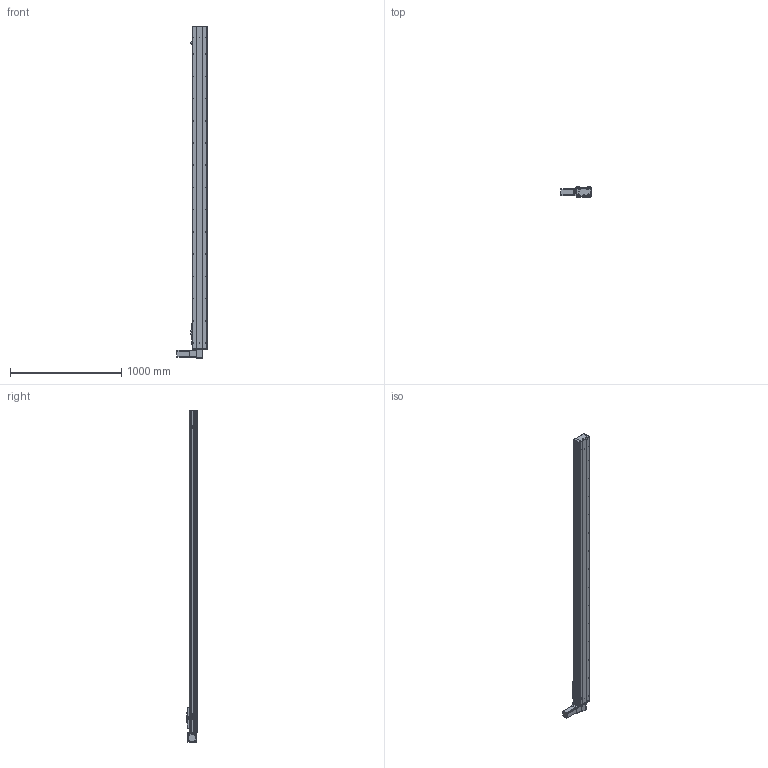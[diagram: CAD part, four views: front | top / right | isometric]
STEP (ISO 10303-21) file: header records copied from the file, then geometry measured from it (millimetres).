
FILE_DESCRIPTION (( 'STEP AP203' ), '1' );
FILE_NAME ('Y135CB-D90-S2600-BD-P400W.STEP', '2020-02-19T06:17:06', ( '微软用户' ), ( '微软中国' ), 'SwSTEP 2.0', 'SolidWorks 2017', '' );
FILE_SCHEMA (( 'CONFIG_CONTROL_DESIGN' ));
Length unit declared in the file: millimetre
Products named in the file (16): 0B-薊粣ん眊; 5CB --掛极耜裔啣-; Y135CB-D90-S2600-BD-P400W; C-詩湍揤踡え-陔; Y135CB-耜裔; 135CB--詩湍-CE; 135CB---遴掛极.-; Y100-135俋离換覜ん--; 0B-源倛裔啣; 35CB---喘謫眊楊擘啣; Y135C-陔俋离換覜結え-; 0B-埴倛裔啣; 5C--俋欶; C-雄赽釱--; Y10B--々湍喘謫眊--666; san松下电机400不带刹车----
Assembly tree (19 placements, depth 2):
  Y135CB-D90-S2600-BD-P400W
    Y135CB-耜裔
    135CB---遴掛极.-
    35CB---喘謫眊楊擘啣
    0B-埴倛裔啣
    0B-源倛裔啣
    san松下电机400不带刹车----
    5CB --掛极耜裔啣-  x2
    C-詩湍揤踡え-陔  x2
    135CB--詩湍-CE
    Y100-135俋离換覜ん--  x3
    Y135C-陔俋离換覜結え-
    5C--俋欶
    C-雄赽釱--
    Y10B--々湍喘謫眊--666
    0B-薊粣ん眊
Bounding box: 272 x 91 x 2988 mm (x, y, z)
Volume: 8541850.4 mm3; surface area: 3340533 mm2
Topology: 19 solids, 19 shells, 887 faces, 2410 edges, 1596 vertices
Faces by surface type: cylinder 456, plane 415, cone 16
Entity records: 27622 total; most frequent: DIRECTION 4606, CARTESIAN_POINT 4599, ORIENTED_EDGE 4296, EDGE_CURVE 2148, AXIS2_PLACEMENT_3D 1699, VERTEX_POINT 1424, VECTOR 1208, LINE 1208
